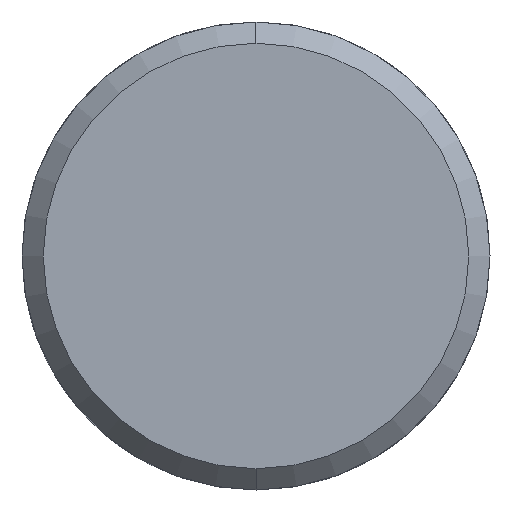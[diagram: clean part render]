
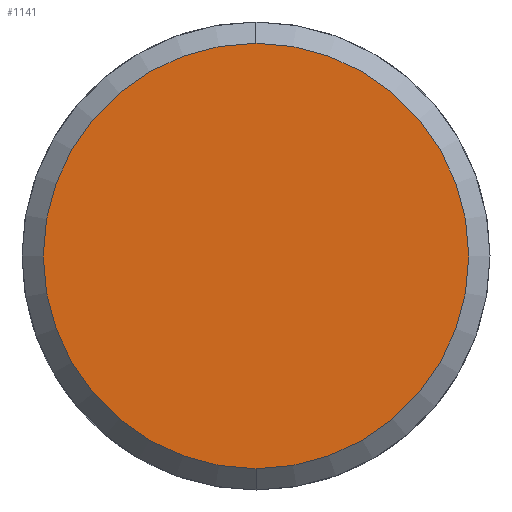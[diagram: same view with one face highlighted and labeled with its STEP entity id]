
A CAD part, left-side view. The second image highlights one B-rep face of the part: STEP entity #1141.
In plain terms, the highlighted planar face has unit normal (-1, 0, 0).
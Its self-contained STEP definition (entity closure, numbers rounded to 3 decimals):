
#1073=CARTESIAN_POINT('Vertex',(-5.,0.,-10.)) ;
#1076=CARTESIAN_POINT('Axis2P3D Location',(-5.,0.,0.)) ;
#1080=CARTESIAN_POINT('Vertex',(-5.,10.,0.)) ;
#1083=CARTESIAN_POINT('Axis2P3D Location',(-5.,0.,0.)) ;
#1087=CARTESIAN_POINT('Vertex',(-5.,0.,10.)) ;
#1109=CARTESIAN_POINT('Axis2P3D Location',(-5.,0.,0.)) ;
#1113=CARTESIAN_POINT('Vertex',(-5.,-10.,0.)) ;
#1116=CARTESIAN_POINT('Axis2P3D Location',(-5.,0.,0.)) ;
#1130=CARTESIAN_POINT('Axis2P3D Location',(-5.,0.,0.)) ;
#1077=DIRECTION('Axis2P3D Direction',(1.,0.,-0.)) ;
#1084=DIRECTION('Axis2P3D Direction',(1.,0.,-0.)) ;
#1110=DIRECTION('Axis2P3D Direction',(1.,0.,-0.)) ;
#1117=DIRECTION('Axis2P3D Direction',(1.,0.,-0.)) ;
#1131=DIRECTION('Axis2P3D Direction',(1.,0.,-0.)) ;
#1132=DIRECTION('Axis2P3D XDirection',(-0.,0.,-1.)) ;
#1078=AXIS2_PLACEMENT_3D('Circle Axis2P3D',#1076,#1077,$) ;
#1085=AXIS2_PLACEMENT_3D('Circle Axis2P3D',#1083,#1084,$) ;
#1111=AXIS2_PLACEMENT_3D('Circle Axis2P3D',#1109,#1110,$) ;
#1118=AXIS2_PLACEMENT_3D('Circle Axis2P3D',#1116,#1117,$) ;
#1133=AXIS2_PLACEMENT_3D('Plane Axis2P3D',#1130,#1131,#1132) ;
#1136=ORIENTED_EDGE('',*,*,#1082,.F.) ;
#1137=ORIENTED_EDGE('',*,*,#1120,.F.) ;
#1138=ORIENTED_EDGE('',*,*,#1115,.F.) ;
#1139=ORIENTED_EDGE('',*,*,#1089,.F.) ;
#1141=ADVANCED_FACE('351-12X46X100',(#1140),#1134,.F.) ;
#1079=CIRCLE('generated circle',#1078,10.) ;
#1086=CIRCLE('generated circle',#1085,10.) ;
#1112=CIRCLE('generated circle',#1111,10.) ;
#1119=CIRCLE('generated circle',#1118,10.) ;
#1082=EDGE_CURVE('',#1074,#1081,#1079,.T.) ;
#1089=EDGE_CURVE('',#1081,#1088,#1086,.T.) ;
#1115=EDGE_CURVE('',#1088,#1114,#1112,.T.) ;
#1120=EDGE_CURVE('',#1114,#1074,#1119,.T.) ;
#1135=EDGE_LOOP('',(#1136,#1137,#1138,#1139)) ;
#1140=FACE_OUTER_BOUND('',#1135,.T.) ;
#1134=PLANE('Plane',#1133) ;
#1074=VERTEX_POINT('',#1073) ;
#1081=VERTEX_POINT('',#1080) ;
#1088=VERTEX_POINT('',#1087) ;
#1114=VERTEX_POINT('',#1113) ;
